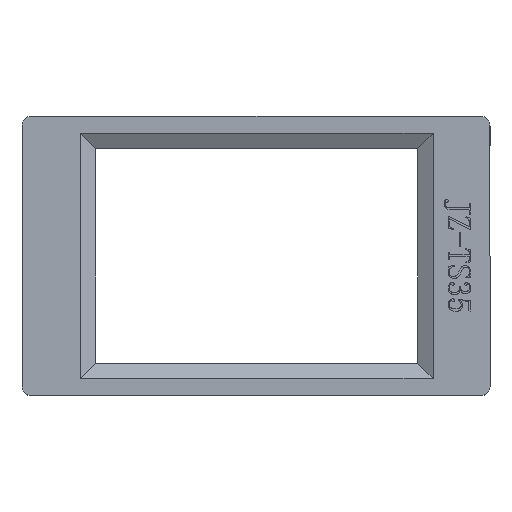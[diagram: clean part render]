
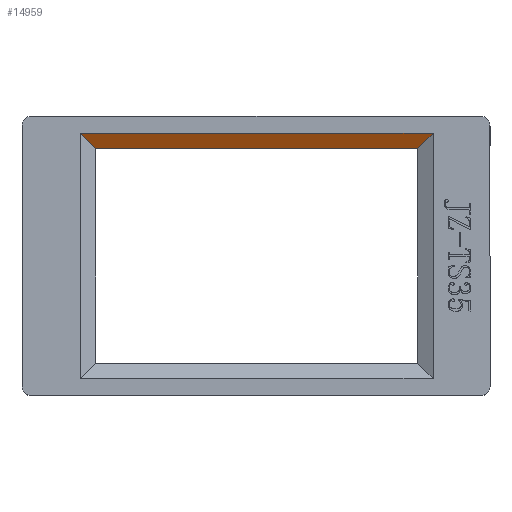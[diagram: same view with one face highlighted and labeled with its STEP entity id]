
A CAD part, top view. The second image highlights one B-rep face of the part: STEP entity #14959.
In plain terms, the highlighted planar face has unit normal (0, -0.5, 0.866).
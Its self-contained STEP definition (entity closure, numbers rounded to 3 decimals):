
#26 = ORIENTED_EDGE ( 'NONE', *, *, #4635, .F. ) ;
#293 = EDGE_LOOP ( 'NONE', ( #26, #4289, #11593, #9618 ) ) ;
#420 = CARTESIAN_POINT ( 'NONE',  ( 87.95, 53.98, -2. ) ) ;
#817 = CARTESIAN_POINT ( 'NONE',  ( 37.644, 30.846, -15.357 ) ) ;
#1083 = CARTESIAN_POINT ( 'NONE',  ( 0., 53.98, -2. ) ) ;
#1277 = VECTOR ( 'NONE', #7420, 1000. ) ;
#1523 = CARTESIAN_POINT ( 'NONE',  ( 0., 57.444, 0. ) ) ;
#1640 = LINE ( 'NONE', #1523, #1277 ) ;
#1664 = PLANE ( 'NONE',  #2633 ) ;
#2156 = EDGE_CURVE ( 'NONE', #3593, #7010, #10086, .T. ) ;
#2633 = AXIS2_PLACEMENT_3D ( 'NONE', #6356, #11044, #4055 ) ;
#3172 = CARTESIAN_POINT ( 'NONE',  ( 14.51, 53.98, -2. ) ) ;
#3593 = VERTEX_POINT ( 'NONE', #3172 ) ;
#3808 = EDGE_CURVE ( 'NONE', #3593, #4650, #7895, .T. ) ;
#3834 = VECTOR ( 'NONE', #7914, 1000. ) ;
#4055 = DIRECTION ( 'NONE',  ( 1., 0., 0. ) ) ;
#4289 = ORIENTED_EDGE ( 'NONE', *, *, #9996, .F. ) ;
#4635 = EDGE_CURVE ( 'NONE', #10998, #4650, #10058, .T. ) ;
#4650 = VERTEX_POINT ( 'NONE', #420 ) ;
#4765 = VECTOR ( 'NONE', #8165, 1000. ) ;
#5137 = DIRECTION ( 'NONE',  ( -0.655, -0.655, -0.378 ) ) ;
#6356 = CARTESIAN_POINT ( 'NONE',  ( 0., 57.444, 0. ) ) ;
#7010 = VERTEX_POINT ( 'NONE', #9613 ) ;
#7420 = DIRECTION ( 'NONE',  ( 1., 0., 0. ) ) ;
#7895 = LINE ( 'NONE', #1083, #4765 ) ;
#7914 = DIRECTION ( 'NONE',  ( -0.655, 0.655, 0.378 ) ) ;
#8165 = DIRECTION ( 'NONE',  ( 1., 0., 0. ) ) ;
#9613 = CARTESIAN_POINT ( 'NONE',  ( 11.046, 57.444, 0. ) ) ;
#9618 = ORIENTED_EDGE ( 'NONE', *, *, #3808, .T. ) ;
#9996 = EDGE_CURVE ( 'NONE', #7010, #10998, #1640, .T. ) ;
#10058 = LINE ( 'NONE', #13270, #13112 ) ;
#10086 = LINE ( 'NONE', #817, #3834 ) ;
#10998 = VERTEX_POINT ( 'NONE', #13784 ) ;
#11044 = DIRECTION ( 'NONE',  ( 0., 0.5, -0.866 ) ) ;
#11593 = ORIENTED_EDGE ( 'NONE', *, *, #2156, .F. ) ;
#13112 = VECTOR ( 'NONE', #5137, 1000. ) ;
#13270 = CARTESIAN_POINT ( 'NONE',  ( 66.795, 32.825, -14.214 ) ) ;
#13784 = CARTESIAN_POINT ( 'NONE',  ( 91.414, 57.444, 0. ) ) ;
#14959 = ADVANCED_FACE ( 'NONE', ( #15031 ), #1664, .F. ) ;
#15031 = FACE_OUTER_BOUND ( 'NONE', #293, .T. ) ;
